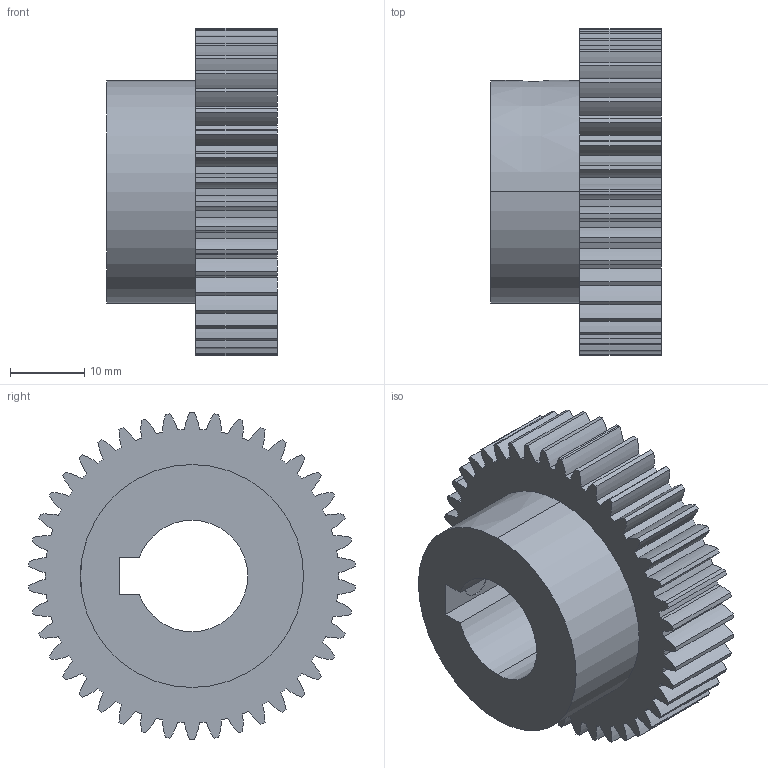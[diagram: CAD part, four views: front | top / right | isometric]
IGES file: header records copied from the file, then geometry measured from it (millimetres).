
Start section: 3D InterOp IGES (v. 2020 1.0.1), Spatial Corp. Copyright (c) 1999-2017.
Global section: file name: p10_w11_t42_bk.igs; native system: Spatial Corp.; preprocessor: 3D InterOp ACIS/IGES; author: TraceParts; organization: TraceParts S.A.; date: 20220624.033347; units: millimetre
Bounding box: 23 x 43.92 x 44 mm (x, y, z)
Surface area: 7608.8 mm2 (no closed solid volume)
Topology: 0 solids, 0 shells, 202 faces, 1176 edges, 1176 vertices
Faces by surface type: revolution 187, extrusion 15
